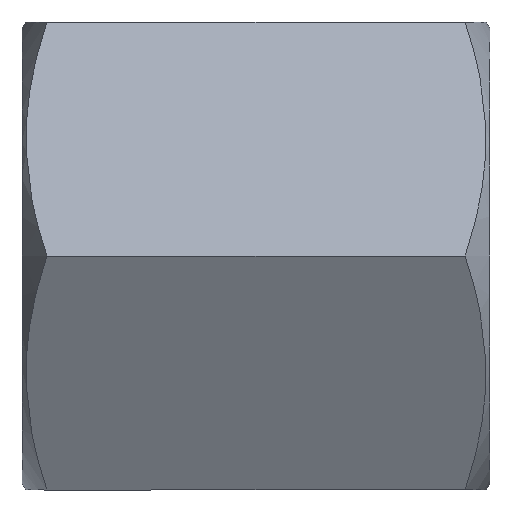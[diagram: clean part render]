
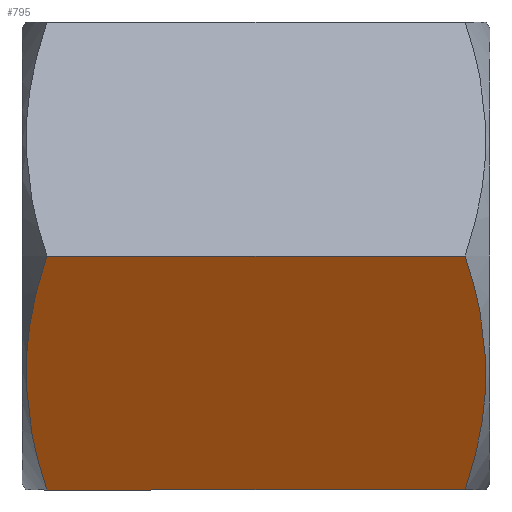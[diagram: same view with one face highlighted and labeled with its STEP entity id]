
A CAD part, front view. The second image highlights one B-rep face of the part: STEP entity #795.
In plain terms, the highlighted planar face has unit normal (0, -0.866, -0.5) as drawn and (-0.5, -0.866, 0) by its records, which use the part's own axes.
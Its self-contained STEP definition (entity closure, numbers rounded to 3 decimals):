
#168=CARTESIAN_POINT('',(-8.5,-4.907,7.596));
#169=VERTEX_POINT('',#168);
#183=CARTESIAN_POINT('',(0.,-9.815,7.596));
#184=VERTEX_POINT('',#183);
#185=CARTESIAN_POINT('',(0.,-9.815,7.596));
#186=CARTESIAN_POINT('',(-4.25,-7.361,9.013));
#187=CARTESIAN_POINT('',(-8.5,-4.907,7.596));
#195=(BOUNDED_CURVE()B_SPLINE_CURVE(2,(#185,#186,#187),.UNSPECIFIED.,.F.,.U.)B_SPLINE_CURVE_WITH_KNOTS((3,3),(2.941,14.172),.UNSPECIFIED.)CURVE()GEOMETRIC_REPRESENTATION_ITEM()RATIONAL_B_SPLINE_CURVE((1.114,1.286,1.114))REPRESENTATION_ITEM(''));
#196=EDGE_CURVE('',#184,#169,#195,.T.);
#259=CARTESIAN_POINT('',(0.,-9.815,-7.596));
#260=VERTEX_POINT('',#259);
#274=CARTESIAN_POINT('',(-8.5,-4.907,-7.596));
#275=VERTEX_POINT('',#274);
#276=CARTESIAN_POINT('',(-8.5,-4.907,-7.596));
#277=CARTESIAN_POINT('',(-4.25,-7.361,-9.013));
#278=CARTESIAN_POINT('',(0.,-9.815,-7.596));
#286=(BOUNDED_CURVE()B_SPLINE_CURVE(2,(#276,#277,#278),.UNSPECIFIED.,.F.,.U.)B_SPLINE_CURVE_WITH_KNOTS((3,3),(2.941,14.172),.UNSPECIFIED.)CURVE()GEOMETRIC_REPRESENTATION_ITEM()RATIONAL_B_SPLINE_CURVE((1.114,1.286,1.114))REPRESENTATION_ITEM(''));
#287=EDGE_CURVE('',#275,#260,#286,.T.);
#745=CARTESIAN_POINT('',(-8.5,-4.907,7.596));
#746=DIRECTION('',(0.0,0.0,-1.0));
#747=VECTOR('',#746,15.193);
#748=LINE('',#745,#747);
#749=EDGE_CURVE('',#169,#275,#748,.T.);
#779=CARTESIAN_POINT('',(-8.5,-4.907,0.0));
#780=DIRECTION('',(-0.5,-0.866,0.0));
#781=DIRECTION('',(0.0,0.0,-1.0));
#782=AXIS2_PLACEMENT_3D('',#779,#780,#781);
#783=PLANE('',#782);
#784=ORIENTED_EDGE('',*,*,#287,.T.);
#785=CARTESIAN_POINT('',(0.,-9.815,-7.596));
#786=DIRECTION('',(0.0,0.0,1.0));
#787=VECTOR('',#786,15.193);
#788=LINE('',#785,#787);
#789=EDGE_CURVE('',#260,#184,#788,.T.);
#790=ORIENTED_EDGE('',*,*,#789,.T.);
#791=ORIENTED_EDGE('',*,*,#196,.T.);
#792=ORIENTED_EDGE('',*,*,#749,.T.);
#793=EDGE_LOOP('',(#784,#790,#791,#792));
#794=FACE_OUTER_BOUND('',#793,.T.);
#795=ADVANCED_FACE('',(#794),#783,.T.);
